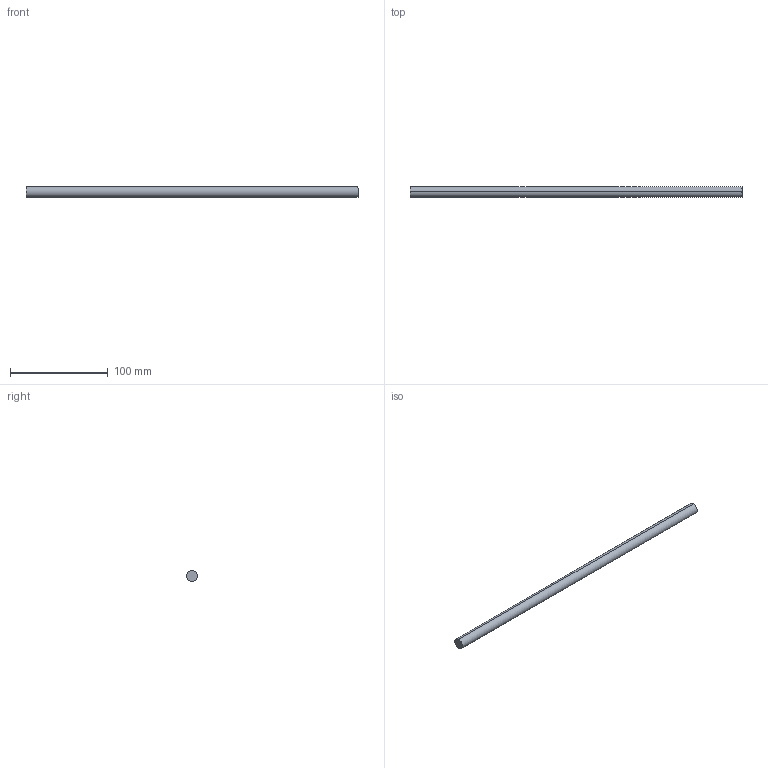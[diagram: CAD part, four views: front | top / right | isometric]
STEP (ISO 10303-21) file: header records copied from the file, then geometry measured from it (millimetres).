
FILE_DESCRIPTION (( 'STEP AP214' ), '1' );
FILE_NAME ('Querreling_Frontblende_Innenlade_KS-16_25mm-Halter_KAB-450.step', '2010-09-22T15:05:38', ( 'grass' ), ( '' ), 'SwSTEP 2.0', 'SolidWorks 2010', '' );
FILE_SCHEMA (( 'AUTOMOTIVE_DESIGN' ));
Length unit declared in the file: millimetre
Products named in the file (1): Querreling_Frontblende_Innenlade_KS-16_25mm-Halter_KAB-450
Bounding box: 340 x 11 x 11 mm (x, y, z)
Volume: 32311.3 mm3; surface area: 11939.6 mm2
Topology: 1 solids, 1 shells, 4 faces, 6 edges, 4 vertices
Faces by surface type: cylinder 2, plane 2
Entity records: 128 total; most frequent: DIRECTION 20, CARTESIAN_POINT 15, ORIENTED_EDGE 12, AXIS2_PLACEMENT_3D 9, EDGE_CURVE 6, EDGE_LOOP 4, CIRCLE 4, FACE_OUTER_BOUND 4
